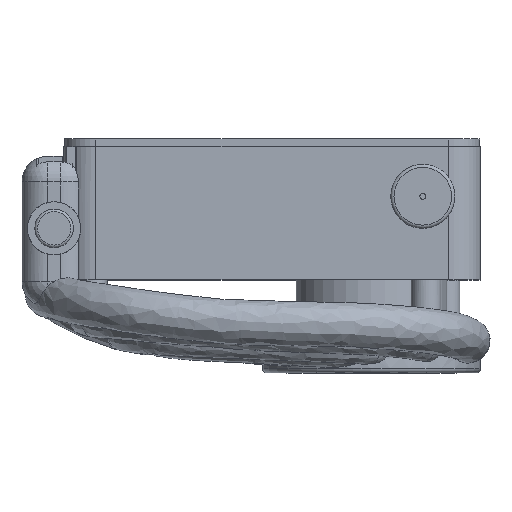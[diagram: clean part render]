
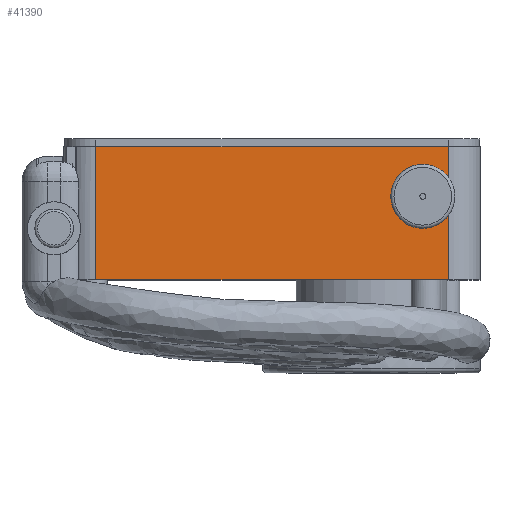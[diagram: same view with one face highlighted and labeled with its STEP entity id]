
A CAD part, top view. The second image highlights one B-rep face of the part: STEP entity #41390.
In plain terms, the highlighted planar face has unit normal (0, 0, 1).
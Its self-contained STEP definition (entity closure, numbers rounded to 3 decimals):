
#41390 = ADVANCED_FACE('',(#41391,#41510),#41405,.F.);
#41391 = FACE_BOUND('',#41392,.F.);
#41392 = EDGE_LOOP('',(#41393,#41428,#41456,#41484));
#41393 = ORIENTED_EDGE('',*,*,#41394,.F.);
#41394 = EDGE_CURVE('',#41395,#41397,#41399,.T.);
#41395 = VERTEX_POINT('',#41396);
#41396 = CARTESIAN_POINT('',(-55.,-16.,83.));
#41397 = VERTEX_POINT('',#41398);
#41398 = CARTESIAN_POINT('',(55.,-16.,83.));
#41399 = SURFACE_CURVE('',#41400,(#41404,#41416),.PCURVE_S1.);
#41400 = LINE('',#41401,#41402);
#41401 = CARTESIAN_POINT('',(-65.,-16.,83.));
#41402 = VECTOR('',#41403,1.);
#41403 = DIRECTION('',(1.,0.,0.));
#41404 = PCURVE('',#41405,#41410);
#41405 = PLANE('',#41406);
#41406 = AXIS2_PLACEMENT_3D('',#41407,#41408,#41409);
#41407 = CARTESIAN_POINT('',(-65.,-16.,83.));
#41408 = DIRECTION('',(0.,0.,-1.));
#41409 = DIRECTION('',(1.,0.,0.));
#41410 = DEFINITIONAL_REPRESENTATION('',(#41411),#41415);
#41411 = LINE('',#41412,#41413);
#41412 = CARTESIAN_POINT('',(0.,0.));
#41413 = VECTOR('',#41414,1.);
#41414 = DIRECTION('',(1.,0.));
#41415 = ( GEOMETRIC_REPRESENTATION_CONTEXT(2) 
PARAMETRIC_REPRESENTATION_CONTEXT() REPRESENTATION_CONTEXT('2D SPACE',''
  ) );
#41416 = PCURVE('',#41417,#41422);
#41417 = PLANE('',#41418);
#41418 = AXIS2_PLACEMENT_3D('',#41419,#41420,#41421);
#41419 = CARTESIAN_POINT('',(0.,-16.,44.));
#41420 = DIRECTION('',(0.,1.,0.));
#41421 = DIRECTION('',(0.,-0.,1.));
#41422 = DEFINITIONAL_REPRESENTATION('',(#41423),#41427);
#41423 = LINE('',#41424,#41425);
#41424 = CARTESIAN_POINT('',(39.,-65.));
#41425 = VECTOR('',#41426,1.);
#41426 = DIRECTION('',(0.,1.));
#41427 = ( GEOMETRIC_REPRESENTATION_CONTEXT(2) 
PARAMETRIC_REPRESENTATION_CONTEXT() REPRESENTATION_CONTEXT('2D SPACE',''
  ) );
#41428 = ORIENTED_EDGE('',*,*,#41429,.T.);
#41429 = EDGE_CURVE('',#41395,#41430,#41432,.T.);
#41430 = VERTEX_POINT('',#41431);
#41431 = CARTESIAN_POINT('',(-55.,25.5,83.));
#41432 = SURFACE_CURVE('',#41433,(#41437,#41444),.PCURVE_S1.);
#41433 = LINE('',#41434,#41435);
#41434 = CARTESIAN_POINT('',(-55.,-16.,83.));
#41435 = VECTOR('',#41436,1.);
#41436 = DIRECTION('',(0.,1.,0.));
#41437 = PCURVE('',#41405,#41438);
#41438 = DEFINITIONAL_REPRESENTATION('',(#41439),#41443);
#41439 = LINE('',#41440,#41441);
#41440 = CARTESIAN_POINT('',(10.,0.));
#41441 = VECTOR('',#41442,1.);
#41442 = DIRECTION('',(0.,-1.));
#41443 = ( GEOMETRIC_REPRESENTATION_CONTEXT(2) 
PARAMETRIC_REPRESENTATION_CONTEXT() REPRESENTATION_CONTEXT('2D SPACE',''
  ) );
#41444 = PCURVE('',#41445,#41450);
#41445 = CYLINDRICAL_SURFACE('',#41446,10.);
#41446 = AXIS2_PLACEMENT_3D('',#41447,#41448,#41449);
#41447 = CARTESIAN_POINT('',(-55.,-16.,73.));
#41448 = DIRECTION('',(0.,1.,0.));
#41449 = DIRECTION('',(0.,-0.,1.));
#41450 = DEFINITIONAL_REPRESENTATION('',(#41451),#41455);
#41451 = LINE('',#41452,#41453);
#41452 = CARTESIAN_POINT('',(6.283,0.));
#41453 = VECTOR('',#41454,1.);
#41454 = DIRECTION('',(-0.,1.));
#41455 = ( GEOMETRIC_REPRESENTATION_CONTEXT(2) 
PARAMETRIC_REPRESENTATION_CONTEXT() REPRESENTATION_CONTEXT('2D SPACE',''
  ) );
#41456 = ORIENTED_EDGE('',*,*,#41457,.T.);
#41457 = EDGE_CURVE('',#41430,#41458,#41460,.T.);
#41458 = VERTEX_POINT('',#41459);
#41459 = CARTESIAN_POINT('',(55.,25.5,83.));
#41460 = SURFACE_CURVE('',#41461,(#41465,#41472),.PCURVE_S1.);
#41461 = LINE('',#41462,#41463);
#41462 = CARTESIAN_POINT('',(-65.,25.5,83.));
#41463 = VECTOR('',#41464,1.);
#41464 = DIRECTION('',(1.,0.,0.));
#41465 = PCURVE('',#41405,#41466);
#41466 = DEFINITIONAL_REPRESENTATION('',(#41467),#41471);
#41467 = LINE('',#41468,#41469);
#41468 = CARTESIAN_POINT('',(0.,-41.5));
#41469 = VECTOR('',#41470,1.);
#41470 = DIRECTION('',(1.,0.));
#41471 = ( GEOMETRIC_REPRESENTATION_CONTEXT(2) 
PARAMETRIC_REPRESENTATION_CONTEXT() REPRESENTATION_CONTEXT('2D SPACE',''
  ) );
#41472 = PCURVE('',#41473,#41478);
#41473 = PLANE('',#41474);
#41474 = AXIS2_PLACEMENT_3D('',#41475,#41476,#41477);
#41475 = CARTESIAN_POINT('',(0.,25.5,44.));
#41476 = DIRECTION('',(0.,1.,0.));
#41477 = DIRECTION('',(0.,-0.,1.));
#41478 = DEFINITIONAL_REPRESENTATION('',(#41479),#41483);
#41479 = LINE('',#41480,#41481);
#41480 = CARTESIAN_POINT('',(39.,-65.));
#41481 = VECTOR('',#41482,1.);
#41482 = DIRECTION('',(0.,1.));
#41483 = ( GEOMETRIC_REPRESENTATION_CONTEXT(2) 
PARAMETRIC_REPRESENTATION_CONTEXT() REPRESENTATION_CONTEXT('2D SPACE',''
  ) );
#41484 = ORIENTED_EDGE('',*,*,#41485,.F.);
#41485 = EDGE_CURVE('',#41397,#41458,#41486,.T.);
#41486 = SURFACE_CURVE('',#41487,(#41491,#41498),.PCURVE_S1.);
#41487 = LINE('',#41488,#41489);
#41488 = CARTESIAN_POINT('',(55.,-16.,83.));
#41489 = VECTOR('',#41490,1.);
#41490 = DIRECTION('',(0.,1.,0.));
#41491 = PCURVE('',#41405,#41492);
#41492 = DEFINITIONAL_REPRESENTATION('',(#41493),#41497);
#41493 = LINE('',#41494,#41495);
#41494 = CARTESIAN_POINT('',(120.,0.));
#41495 = VECTOR('',#41496,1.);
#41496 = DIRECTION('',(0.,-1.));
#41497 = ( GEOMETRIC_REPRESENTATION_CONTEXT(2) 
PARAMETRIC_REPRESENTATION_CONTEXT() REPRESENTATION_CONTEXT('2D SPACE',''
  ) );
#41498 = PCURVE('',#41499,#41504);
#41499 = CYLINDRICAL_SURFACE('',#41500,10.);
#41500 = AXIS2_PLACEMENT_3D('',#41501,#41502,#41503);
#41501 = CARTESIAN_POINT('',(55.,-16.,73.));
#41502 = DIRECTION('',(0.,1.,0.));
#41503 = DIRECTION('',(0.,-0.,1.));
#41504 = DEFINITIONAL_REPRESENTATION('',(#41505),#41509);
#41505 = LINE('',#41506,#41507);
#41506 = CARTESIAN_POINT('',(0.,0.));
#41507 = VECTOR('',#41508,1.);
#41508 = DIRECTION('',(0.,1.));
#41509 = ( GEOMETRIC_REPRESENTATION_CONTEXT(2) 
PARAMETRIC_REPRESENTATION_CONTEXT() REPRESENTATION_CONTEXT('2D SPACE',''
  ) );
#41510 = FACE_BOUND('',#41511,.F.);
#41511 = EDGE_LOOP('',(#41512));
#41512 = ORIENTED_EDGE('',*,*,#41513,.F.);
#41513 = EDGE_CURVE('',#41514,#41514,#41516,.T.);
#41514 = VERTEX_POINT('',#41515);
#41515 = CARTESIAN_POINT('',(50.3,10.,83.));
#41516 = SURFACE_CURVE('',#41517,(#41522,#41529),.PCURVE_S1.);
#41517 = CIRCLE('',#41518,3.3);
#41518 = AXIS2_PLACEMENT_3D('',#41519,#41520,#41521);
#41519 = CARTESIAN_POINT('',(47.,10.,83.));
#41520 = DIRECTION('',(0.,0.,-1.));
#41521 = DIRECTION('',(1.,0.,0.));
#41522 = PCURVE('',#41405,#41523);
#41523 = DEFINITIONAL_REPRESENTATION('',(#41524),#41528);
#41524 = CIRCLE('',#41525,3.3);
#41525 = AXIS2_PLACEMENT_2D('',#41526,#41527);
#41526 = CARTESIAN_POINT('',(112.,-26.));
#41527 = DIRECTION('',(1.,0.));
#41528 = ( GEOMETRIC_REPRESENTATION_CONTEXT(2) 
PARAMETRIC_REPRESENTATION_CONTEXT() REPRESENTATION_CONTEXT('2D SPACE',''
  ) );
#41529 = PCURVE('',#41530,#41535);
#41530 = CYLINDRICAL_SURFACE('',#41531,3.3);
#41531 = AXIS2_PLACEMENT_3D('',#41532,#41533,#41534);
#41532 = CARTESIAN_POINT('',(47.,10.,77.));
#41533 = DIRECTION('',(-0.,-0.,-1.));
#41534 = DIRECTION('',(1.,0.,0.));
#41535 = DEFINITIONAL_REPRESENTATION('',(#41536),#41540);
#41536 = LINE('',#41537,#41538);
#41537 = CARTESIAN_POINT('',(0.,-6.));
#41538 = VECTOR('',#41539,1.);
#41539 = DIRECTION('',(1.,-0.));
#41540 = ( GEOMETRIC_REPRESENTATION_CONTEXT(2) 
PARAMETRIC_REPRESENTATION_CONTEXT() REPRESENTATION_CONTEXT('2D SPACE',''
  ) );
